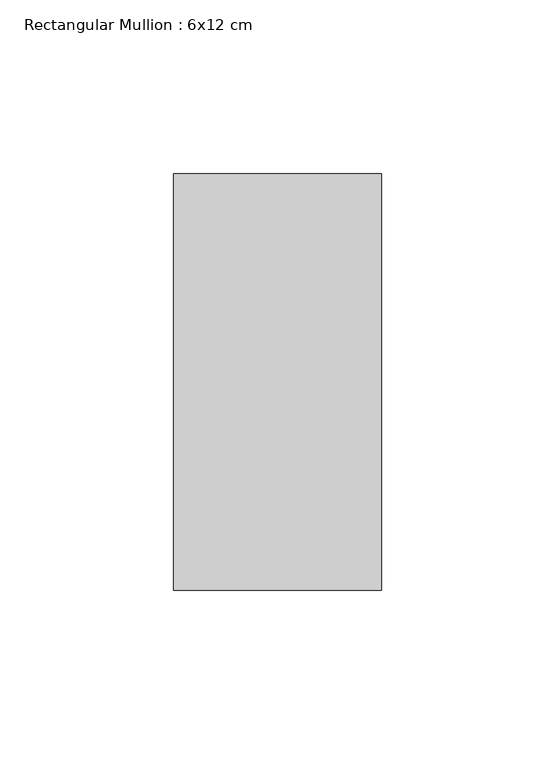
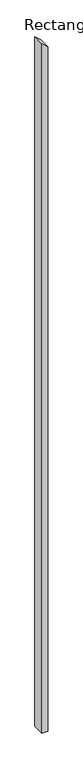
"""IFC4 building model written with IfcOpenShell, lengths in millimetres: member geometry, Rectangular Mullion : 6x12 cm."""

from ifc_helpers import new_model, si_unit, frame, origin, place, context, project, spatial, polyline, outline, extrude, source, transform, mapped, element, save


def rectangular_mullion_6x12_cm_5c9b6984(model_context):
    return source(origin(), model_context, "Body", "SweptSolid", [
        extrude(outline(polyline([(-105.3653049, 30.0), (-53.3933853, -30.0), (-7261.7639197, -30.0), (-7261.7639197, 30.0), (-105.3653049, 30.0)])), frame((0.0, 85.0, 0.0), z_axis=(0.0, 1.0, 0.0), x_axis=(0.0, 0.0, 1.0)), (0.0, 0.0, 1.0), 120.0),
    ])


if __name__ == "__main__":
    model = new_model("IFC4")
    model_context = context("Model", 3, world=origin())
    ifc_project = project(units=[si_unit("LENGTHUNIT", "METRE", prefix="MILLI")], contexts=[model_context])
    site = spatial("IfcSite", under=ifc_project)
    building = spatial("IfcBuilding", under=site)
    placement = place(None, origin())
    rectangular_mullion_6x12_cm_shape = rectangular_mullion_6x12_cm_5c9b6984(model_context)
    element("IfcMember", 1, ObjectType="Rectangular Mullion : 6x12 cm", at=placement, inside=building, context=model_context, shape_type="MappedRepresentation", body=[
        mapped(rectangular_mullion_6x12_cm_shape, transform((0.0, 0.0, 0.0), x_axis=(1.0, 0.0, 0.0), y_axis=(0.0, 1.0, 0.0), z_axis=(0.0, 0.0, 1.0))),
    ])
    save(model, "model.ifc")
